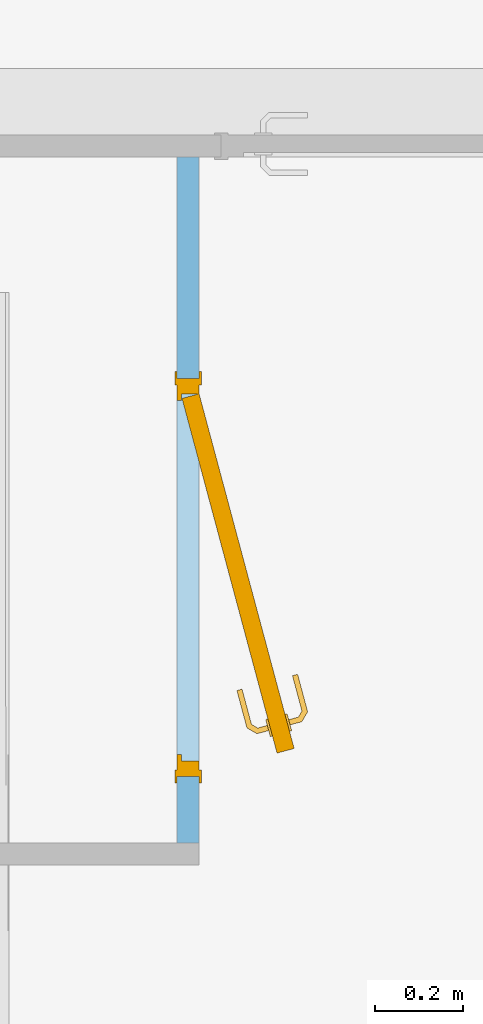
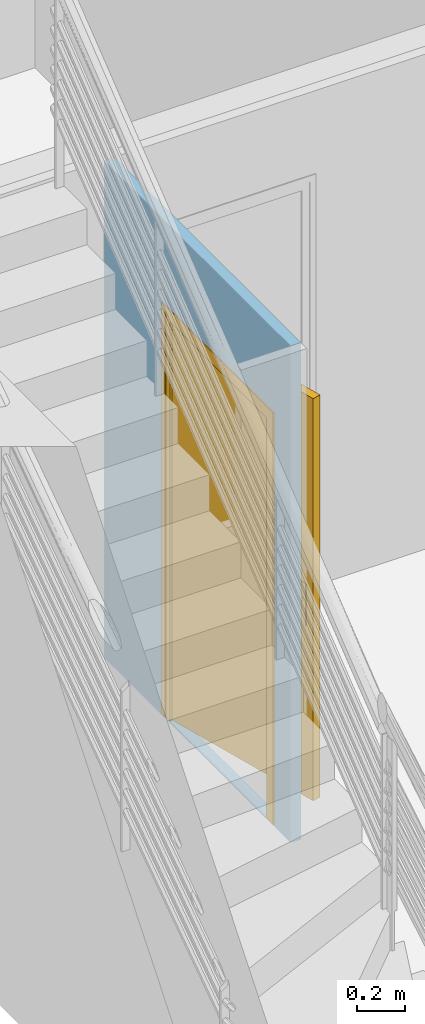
# One storey, part 9 of 12: 1 door, 1 opening, plus 1 element that does not belong to this part.
"""IFC2X3 building model written with IfcOpenShell, lengths in metres."""

from ifc_helpers import new_model, entity, si_unit, converted_unit, derived_unit, direction, frame, frame_2d, origin, place, context, subcontext, project, spatial, rectangle, extrude, faceted_brep, source, transform, mapped, material, material_list, layer, layer_set, layer_usage, type_object, type_shapes, element, fill, save


model = new_model("IFC2X3")

# Units and contexts
model_context = context("Model", 3, precision=1e-05, world=origin(), true_north=direction((6.12303176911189e-17, 1.0)))
context_of_model = context(None, 3, precision=1e-05, world=origin(), true_north=direction((6.12303176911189e-17, 1.0)))
body_context = subcontext(model_context, "Body", "Model", "MODEL_VIEW")
ifc_project = project(units=[si_unit("LENGTHUNIT", "METRE"), si_unit("AREAUNIT", "SQUARE_METRE"), si_unit("VOLUMEUNIT", "CUBIC_METRE"), converted_unit("PLANEANGLEUNIT", "DEGREE", entity("IfcRatioMeasure", 0.0174532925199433), si_unit("PLANEANGLEUNIT", "RADIAN"), dimensions=[0, 0, 0, 0, 0, 0, 0]), si_unit("MASSUNIT", "GRAM", prefix="KILO"), si_unit("TIMEUNIT", "SECOND"), si_unit("FREQUENCYUNIT", "HERTZ"), si_unit("THERMODYNAMICTEMPERATUREUNIT", "DEGREE_CELSIUS"), derived_unit("THERMALTRANSMITTANCEUNIT", [(si_unit("MASSUNIT", "GRAM", prefix="KILO"), 1), (si_unit("THERMODYNAMICTEMPERATUREUNIT", "KELVIN"), -1), (si_unit("TIMEUNIT", "SECOND"), -3)]), derived_unit("VOLUMETRICFLOWRATEUNIT", [(si_unit("LENGTHUNIT", "METRE"), 3), (si_unit("TIMEUNIT", "SECOND"), -1)]), si_unit("ELECTRICCURRENTUNIT", "AMPERE"), si_unit("ELECTRICVOLTAGEUNIT", "VOLT"), si_unit("POWERUNIT", "WATT"), si_unit("FORCEUNIT", "NEWTON", prefix="KILO"), si_unit("ILLUMINANCEUNIT", "LUX"), si_unit("LUMINOUSFLUXUNIT", "LUMEN"), si_unit("LUMINOUSINTENSITYUNIT", "CANDELA"), derived_unit("USERDEFINED", [(si_unit("MASSUNIT", "GRAM", prefix="KILO"), -1), (si_unit("LENGTHUNIT", "METRE"), -2), (si_unit("TIMEUNIT", "SECOND"), 3), (si_unit("LUMINOUSFLUXUNIT", "LUMEN"), 1)]), derived_unit("LINEARVELOCITYUNIT", [(si_unit("LENGTHUNIT", "METRE"), 1), (si_unit("TIMEUNIT", "SECOND"), -1)]), si_unit("PRESSUREUNIT", "PASCAL"), derived_unit("USERDEFINED", [(si_unit("LENGTHUNIT", "METRE"), -2), (si_unit("MASSUNIT", "GRAM", prefix="KILO"), 1), (si_unit("TIMEUNIT", "SECOND"), -2)])], contexts=[model_context, context_of_model])

# Site, building, storey
site_placement = place(None, origin())
site = spatial("IfcSite", under=ifc_project, at=site_placement, Name="Surface", CompositionType="ELEMENT")
building_placement = place(site_placement, origin())
building = spatial("IfcBuilding", under=site, at=building_placement, CompositionType="ELEMENT")
storey_placement = place(building_placement, origin())
storey = spatial("IfcBuildingStorey", under=building, at=storey_placement, Name="Rez de chaussée", CompositionType="ELEMENT", Elevation=0.0)

# Wall, opening, door
ifc_material_1 = material(Name="Maçonnerie - Isolant(1)")
ifc_layer = layer(ifc_material_1, 0.05)
ifc_layer_set = layer_set([ifc_layer], Name="Mur de base:Int. plâtre 50 mm")
ifc_layer_usage = layer_usage(ifc_layer_set, "AXIS2", "NEGATIVE", 0.025)
wall_type = type_object("IfcWallType", Name="Mur de base:Int. plâtre 50 mm", PredefinedType="STANDARD", material=ifc_layer_set)
wall_placement = place(storey_placement, frame((-9.97108881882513, 1.51425578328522, -0.00999999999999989), z_axis=(0.0, 0.0, 1.0), x_axis=(0.0, -1.0, 0.0)))
wall = element("IfcWallStandardCase", 1, at=wall_placement, inside=storey, type_object=wall_type, material=ifc_layer_usage, Name="Mur de base:Int. plâtre 50 mm", ObjectType="Mur de base:Int. plâtre 50 mm", context=body_context, shape_type="SweptSolid", body=[
    extrude(rectangle(XDim=1.55, YDim=0.0500000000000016, at=frame_2d((0.775000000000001, 0.0), x_axis=(-1.0, 0.0))), origin(), (0.0, 0.0, 1.0), 2.52),
])
opening_placement = place(wall_placement, frame((0.500000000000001, -0.025, 0.00999999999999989)))
opening = element("IfcOpeningElement", 2, at=opening_placement, cuts=wall, Name="Int. Simple:PP (0.83m x 2.04m):1", ObjectType="Opening", context=body_context, shape_type="SweptSolid", body=[
    extrude(rectangle(XDim=2.075, YDim=0.9, at=frame_2d((1.0375, 0.45), x_axis=(1.0, 0.0))), frame((0.0, 0.0, 0.0), z_axis=(0.0, 1.0, 0.0), x_axis=(0.0, 0.0, 1.0)), (0.0, 0.0, 1.0), 0.05),
])
ifc_material_2 = material(Name="Finition Peinture - Blanc satiné")
ifc_material_3 = material(Name="Bois - Panneau de porte")
ifc_material_4 = material(Name="Bois - Cadre de porte")
ifc_material_list_1 = material_list([ifc_material_2, ifc_material_3, ifc_material_4])
ifc_material_list_2 = material_list([ifc_material_2, ifc_material_3, ifc_material_4])
door_style = type_object("IfcDoorStyle", Name="PP (0.83m x 2.04m)", ConstructionType="NOTDEFINED", OperationType="SINGLE_SWING_LEFT", ParameterTakesPrecedence=False, Sizeable=False, material=ifc_material_list_2)
shared_shape = source(origin(), body_context, "Body", "Brep", [
    faceted_brep([(0.13253120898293, -0.201440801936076, 0.866003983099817), (0.141849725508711, -0.198943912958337, 0.870000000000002), (0.14184972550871, -0.198943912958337, 1.08), (0.132531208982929, -0.201440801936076, 1.08399601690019), (0.122531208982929, -0.204120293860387, 1.08535898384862), (0.112531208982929, -0.206799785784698, 1.08399601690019), (0.103212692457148, -0.209296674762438, 1.08), (0.103212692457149, -0.209296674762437, 0.870000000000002), (0.112531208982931, -0.206799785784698, 0.866003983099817), (0.12253120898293, -0.204120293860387, 0.86464101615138), (0.131237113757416, -0.196611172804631, 1.08399601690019), (0.140555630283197, -0.194114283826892, 1.08), (0.140555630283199, -0.194114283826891, 0.870000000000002), (0.131237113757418, -0.19661117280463, 0.866003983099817), (0.121237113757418, -0.199290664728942, 0.86464101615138), (0.111237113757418, -0.201970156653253, 0.866003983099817), (0.101918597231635, -0.204467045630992, 0.870000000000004), (0.101918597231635, -0.204467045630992, 1.08), (0.111237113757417, -0.201970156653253, 1.08399601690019), (0.121237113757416, -0.199290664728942, 1.08535898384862)], [[[0, 1, 2, 3, 4, 5, 6, 7, 8, 9]], [[10, 11, 12, 13, 14, 15, 16, 17, 18, 19]], [[16, 15, 8, 7]], [[8, 15, 14, 9]], [[14, 13, 0, 9]], [[13, 12, 1, 0]], [[2, 1, 12, 11]], [[11, 10, 3, 2]], [[3, 10, 19, 4]], [[19, 18, 5, 4]], [[18, 17, 6, 5]], [[7, 6, 17, 16]]]),
    faceted_brep([(0.120884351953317, -0.157974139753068, 0.866003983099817), (0.130202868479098, -0.155477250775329, 0.870000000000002), (0.130202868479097, -0.155477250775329, 1.08), (0.120884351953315, -0.157974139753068, 1.08399601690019), (0.110884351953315, -0.160653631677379, 1.08535898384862), (0.100884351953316, -0.163333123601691, 1.08399601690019), (0.0915658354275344, -0.16583001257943, 1.08), (0.0915658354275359, -0.165830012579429, 0.870000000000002), (0.100884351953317, -0.16333312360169, 0.866003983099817), (0.110884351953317, -0.160653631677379, 0.86464101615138), (0.119590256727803, -0.153144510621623, 1.08399601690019), (0.128908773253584, -0.150647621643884, 1.08), (0.128908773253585, -0.150647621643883, 0.870000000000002), (0.119590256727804, -0.153144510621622, 0.866003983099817), (0.109590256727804, -0.155824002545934, 0.86464101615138), (0.0995902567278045, -0.158503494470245, 0.866003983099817), (0.0902717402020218, -0.161000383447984, 0.870000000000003), (0.0902717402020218, -0.161000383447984, 1.08), (0.099590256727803, -0.158503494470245, 1.08399601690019), (0.109590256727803, -0.155824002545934, 1.08535898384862)], [[[0, 1, 2, 3, 4, 5, 6, 7, 8, 9]], [[10, 11, 12, 13, 14, 15, 16, 17, 18, 19]], [[11, 10, 3, 2]], [[3, 10, 19, 4]], [[19, 18, 5, 4]], [[18, 17, 6, 5]], [[7, 6, 17, 16]], [[16, 15, 8, 7]], [[8, 15, 14, 9]], [[14, 13, 0, 9]], [[13, 12, 1, 0]], [[2, 1, 12, 11]]]),
    faceted_brep([(0.120574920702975, -0.204644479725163, 1.00778044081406), (0.124487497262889, -0.20359610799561, 1.00778044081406), (0.128326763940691, -0.202567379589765, 1.00699999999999), (0.128326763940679, -0.202567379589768, 0.993000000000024), (0.124487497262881, -0.203596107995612, 0.992219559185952), (0.120574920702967, -0.204644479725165, 0.99221955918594), (0.116735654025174, -0.205673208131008, 0.992999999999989), (0.116735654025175, -0.205673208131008, 1.007), (0.12389224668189, -0.232381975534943, 1.007), (0.127305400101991, -0.229762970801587, 1.00778044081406), (0.146961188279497, -0.241111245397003, 1.00778044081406), (0.147533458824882, -0.236764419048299, 1.00778044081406), (0.130783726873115, -0.227093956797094, 1.00778044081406), (0.134196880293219, -0.224474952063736, 1.007), (0.134196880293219, -0.224474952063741, 0.993000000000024), (0.130783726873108, -0.227093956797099, 0.992219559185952), (0.147533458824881, -0.236764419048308, 0.992219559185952), (0.146961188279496, -0.241111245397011, 0.99221955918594), (0.127305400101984, -0.229762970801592, 0.99221955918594), (0.123892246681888, -0.232381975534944, 0.992999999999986), (0.146399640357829, -0.245376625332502, 1.007), (0.148095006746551, -0.232499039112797, 1.007), (0.148095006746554, -0.232499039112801, 0.993000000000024), (0.146399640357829, -0.245376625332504, 0.992999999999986), (0.231054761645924, -0.222693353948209, 0.992999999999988), (0.230026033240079, -0.218854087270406, 0.99221955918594), (0.228977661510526, -0.214941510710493, 0.992219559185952), (0.227948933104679, -0.211102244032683, 0.993000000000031), (0.227948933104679, -0.211102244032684, 1.007), (0.228977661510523, -0.214941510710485, 1.00778044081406), (0.230026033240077, -0.218854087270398, 1.00778044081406), (0.231054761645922, -0.222693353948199, 1.00699999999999), (0.184969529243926, -0.235041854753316, 1.007), (0.188779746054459, -0.227809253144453, 1.0078786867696), (0.188021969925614, -0.22180064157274, 1.007), (0.188021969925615, -0.221800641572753, 0.993000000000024), (0.188779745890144, -0.227809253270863, 0.992121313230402), (0.184969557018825, -0.235041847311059, 0.992999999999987)], [[[0, 1, 2, 3, 4, 5, 6, 7]], [[8, 9, 0, 7]], [[9, 10, 11, 12, 1, 0]], [[12, 13, 2, 1]], [[3, 2, 13, 14]], [[14, 15, 4, 3]], [[15, 16, 17, 18, 5, 4]], [[18, 19, 6, 5]], [[7, 6, 19, 8]], [[20, 10, 9, 8]], [[11, 21, 13, 12]], [[14, 13, 21, 22]], [[22, 16, 15, 14]], [[17, 23, 19, 18]], [[8, 19, 23, 20]], [[24, 25, 26, 27, 28, 29, 30, 31]], [[32, 30, 33]], [[31, 30, 32]], [[10, 20, 32]], [[33, 34, 11]], [[21, 11, 34]], [[34, 29, 28]], [[30, 29, 33]], [[29, 34, 33]], [[10, 32, 33]], [[10, 33, 11]], [[22, 21, 34, 28, 27, 35]], [[35, 26, 36]], [[37, 36, 25]], [[22, 35, 16]], [[35, 27, 26]], [[24, 37, 25]], [[23, 17, 37]], [[37, 17, 36]], [[17, 16, 36]], [[16, 35, 36]], [[25, 36, 26]], [[20, 23, 37, 24, 31, 32]]]),
    faceted_brep([(0.107633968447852, -0.156348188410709, 1.00778044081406), (0.103794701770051, -0.157376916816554, 1.007), (0.103794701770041, -0.157376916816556, 0.992999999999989), (0.107633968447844, -0.156348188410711, 0.99221955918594), (0.111546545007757, -0.155299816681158, 0.992219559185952), (0.115385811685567, -0.154271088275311, 0.993000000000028), (0.115385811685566, -0.154271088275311, 1.007), (0.111546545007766, -0.155299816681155, 1.00778044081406), (0.109566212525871, -0.132552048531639, 0.993000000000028), (0.109566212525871, -0.132552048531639, 1.007), (0.105300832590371, -0.131990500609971, 1.00778044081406), (0.11506852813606, -0.115072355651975, 1.00778044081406), (0.112399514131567, -0.111594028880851, 1.00778044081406), (0.100954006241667, -0.131418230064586, 1.00778044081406), (0.0966886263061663, -0.130856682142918, 1.007), (0.096688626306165, -0.130856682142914, 0.992999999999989), (0.100954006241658, -0.131418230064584, 0.99221955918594), (0.112399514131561, -0.111594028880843, 0.99221955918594), (0.115068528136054, -0.115072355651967, 0.992219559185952), (0.105300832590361, -0.13199050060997, 0.992219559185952), (0.117687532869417, -0.118485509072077, 0.993000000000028), (0.117687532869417, -0.118485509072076, 1.007), (0.10978050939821, -0.108180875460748, 1.007), (0.109780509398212, -0.108180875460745, 0.992999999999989), (0.197434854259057, -0.0971172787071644, 0.993000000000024), (0.196406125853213, -0.0932780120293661, 0.992219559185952), (0.19535775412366, -0.0893654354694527, 0.99221955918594), (0.194329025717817, -0.0855261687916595, 0.992999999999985), (0.194329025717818, -0.0855261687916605, 1.007), (0.195357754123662, -0.089365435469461, 1.00778044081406), (0.196406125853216, -0.0932780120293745, 1.00778044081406), (0.19743485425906, -0.0971172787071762, 1.007), (0.1575611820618, -0.107801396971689, 0.993000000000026), (0.157561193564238, -0.107801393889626, 1.007), (0.155213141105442, -0.102218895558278, 1.0078786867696), (0.148350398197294, -0.097846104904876, 1.007), (0.148350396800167, -0.097846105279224, 0.992999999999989), (0.155213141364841, -0.102218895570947, 0.992121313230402)], [[[0, 1, 2, 3, 4, 5, 6, 7]], [[6, 5, 8, 9]], [[9, 10, 7, 6]], [[10, 11, 12, 13, 0, 7]], [[13, 14, 1, 0]], [[2, 1, 14, 15]], [[15, 16, 3, 2]], [[16, 17, 18, 19, 4, 3]], [[19, 8, 5, 4]], [[9, 8, 20, 21]], [[21, 11, 10, 9]], [[12, 22, 14, 13]], [[15, 14, 22, 23]], [[23, 17, 16, 15]], [[18, 20, 8, 19]], [[24, 25, 26, 27, 28, 29, 30, 31]], [[21, 20, 32, 24, 31, 33]], [[33, 30, 34]], [[35, 34, 29]], [[21, 33, 11]], [[33, 31, 30]], [[28, 35, 29]], [[22, 12, 35]], [[35, 12, 34]], [[12, 11, 34]], [[11, 33, 34]], [[29, 34, 30]], [[22, 35, 28, 27, 36, 23]], [[36, 26, 37]], [[27, 26, 36]], [[17, 23, 36]], [[37, 32, 18]], [[20, 18, 32]], [[32, 25, 24]], [[26, 25, 37]], [[25, 32, 37]], [[17, 36, 37]], [[17, 37, 18]]]),
    faceted_brep([(0.0529288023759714, -0.176182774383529, 2.04), (0.854647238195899, 0.0386370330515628, 2.04), (0.854647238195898, 0.0386370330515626, 0.0), (0.0529288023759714, -0.176182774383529, 0.0), (0.0632815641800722, -0.214819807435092, 2.04), (0.0632815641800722, -0.214819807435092, 0.0), (0.864999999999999, 0.0, 0.0), (0.865, 0.0, 2.04)], [[[0, 1, 2, 3]], [[4, 5, 6, 7]], [[1, 0, 4, 7]], [[2, 1, 7, 6]], [[3, 2, 6, 5]], [[0, 3, 5, 4]]]),
    faceted_brep([(0.0, 0.0, 0.0), (0.0, 0.050000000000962, 0.0), (0.0499999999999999, 0.050000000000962, 0.0), (0.0499999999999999, 0.040000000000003, 0.0), (0.0349999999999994, 0.040000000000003, 0.0), (0.0349999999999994, 0.0, 0.0), (0.0, 0.0, 2.07500000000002), (0.0, 0.050000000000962, 2.07500000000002), (0.900000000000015, 0.050000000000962, 2.07500000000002), (0.900000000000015, 0.050000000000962, 0.0), (0.85, 0.050000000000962, 0.0), (0.85, 0.050000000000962, 2.025), (0.0500000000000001, 0.050000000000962, 2.025), (0.05, 0.040000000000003, 2.025), (0.85, 0.040000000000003, 2.025), (0.85, 0.040000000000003, 0.0), (0.865, 0.040000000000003, 0.0), (0.865, 0.040000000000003, 2.04), (0.0349999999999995, 0.040000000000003, 2.04), (0.0349999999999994, 0.0, 2.04), (0.865, 0.0, 2.04), (0.865, 0.0, 0.0), (0.900000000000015, 0.0, 0.0), (0.900000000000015, 0.0, 2.07500000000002)], [[[0, 1, 2, 3, 4, 5]], [[1, 0, 6, 7]], [[2, 1, 7, 8, 9, 10, 11, 12]], [[3, 2, 12, 13]], [[4, 3, 13, 14, 15, 16, 17, 18]], [[5, 4, 18, 19]], [[0, 5, 19, 20, 21, 22, 23, 6]], [[8, 23, 22, 9]], [[22, 21, 16, 15, 10, 9]], [[14, 11, 10, 15]], [[20, 17, 16, 21]], [[7, 6, 23, 8]], [[13, 12, 11, 14]], [[19, 18, 17, 20]]]),
    faceted_brep([(0.0149999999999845, 0.050000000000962, 0.0), (-0.0150000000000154, 0.050000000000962, 0.0), (-0.0150000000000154, 0.055000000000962, 0.0), (0.0149999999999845, 0.055000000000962, 0.0), (0.0149999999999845, 0.050000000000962, 2.06000000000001), (0.884999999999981, 0.050000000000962, 2.06000000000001), (0.88499999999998, 0.050000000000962, 0.0), (0.91499999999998, 0.050000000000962, 0.0), (0.91499999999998, 0.050000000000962, 2.09000000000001), (-0.0150000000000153, 0.050000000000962, 2.09000000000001), (-0.0150000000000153, 0.055000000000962, 2.09000000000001), (0.91499999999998, 0.055000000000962, 2.09000000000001), (0.91499999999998, 0.055000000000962, 0.0), (0.88499999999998, 0.055000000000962, 0.0), (0.88499999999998, 0.055000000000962, 2.06000000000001), (0.0149999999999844, 0.055000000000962, 2.06000000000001)], [[[0, 1, 2, 3]], [[1, 0, 4, 5, 6, 7, 8, 9]], [[2, 1, 9, 10]], [[3, 2, 10, 11, 12, 13, 14, 15]], [[0, 3, 15, 4]], [[6, 13, 12, 7]], [[5, 14, 13, 6]], [[11, 8, 7, 12]], [[10, 9, 8, 11]], [[4, 15, 14, 5]]]),
    faceted_brep([(-0.0150000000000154, -0.005, 0.0), (0.0149999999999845, -0.005, 0.0), (0.0149999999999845, -0.005, 2.06000000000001), (0.884999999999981, -0.005, 2.06000000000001), (0.88499999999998, -0.005, 0.0), (0.91499999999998, -0.005, 0.0), (0.91499999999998, -0.005, 2.09000000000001), (-0.0150000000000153, -0.005, 2.09000000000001), (-0.0150000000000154, 0.0, 0.0), (-0.0150000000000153, 0.0, 2.09000000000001), (0.0149999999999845, 0.0, 0.0), (0.91499999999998, 0.0, 2.09000000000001), (0.91499999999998, 0.0, 0.0), (0.88499999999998, 0.0, 0.0), (0.88499999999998, 0.0, 2.06000000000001), (0.0149999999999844, 0.0, 2.06000000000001)], [[[0, 1, 2, 3, 4, 5, 6, 7]], [[8, 0, 7, 9]], [[10, 8, 9, 11, 12, 13, 14, 15]], [[1, 10, 15, 2]], [[3, 14, 13, 4]], [[11, 6, 5, 12]], [[9, 7, 6, 11]], [[2, 15, 14, 3]], [[4, 13, 12, 5]], [[1, 0, 8, 10]]]),
])
type_shapes(door_style, [shared_shape])
door_placement = place(opening_placement, frame((0.9, 0.0500000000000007, 0.0), z_axis=(0.0, 0.0, 1.0), x_axis=(-1.0, 0.0, 0.0)))
door = element("IfcDoor", 3, at=door_placement, inside=storey, type_object=door_style, material=ifc_material_list_1, Name="Int. Simple:PP (0.83m x 2.04m)", ObjectType="PP (0.83m x 2.04m)", OverallHeight=2.075, OverallWidth=0.9, context=body_context, shape_type="MappedRepresentation", body=[
    mapped(shared_shape, transform((0.0, 0.0, 0.0), scale=1.0)),
])
fill(opening, door)

save(model, "model.ifc")
